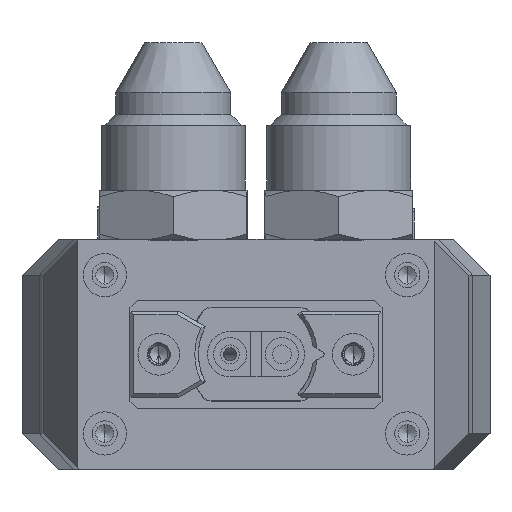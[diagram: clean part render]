
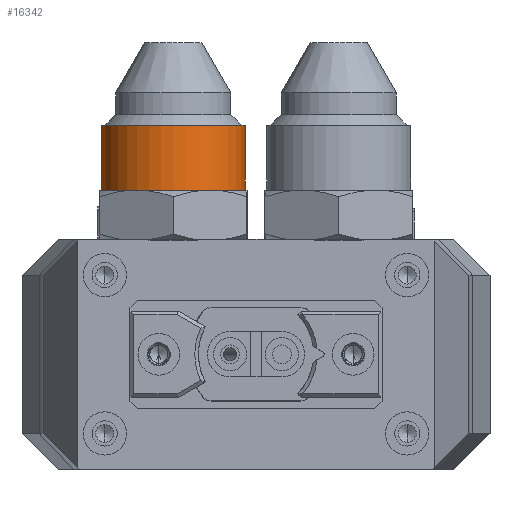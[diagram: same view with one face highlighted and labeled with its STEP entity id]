
A CAD part, front view. The second image highlights one B-rep face of the part: STEP entity #16342.
In plain terms, the highlighted cylindrical face has radius 10 mm (diameter 20 mm), a partial arc.
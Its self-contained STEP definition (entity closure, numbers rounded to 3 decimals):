
#1377 = DIRECTION ( 'NONE',  ( 0., 0., 1. ) ) ;
#2570 = EDGE_CURVE ( 'NONE', #67101, #8039, #26085, .T. ) ;
#3423 = DIRECTION ( 'NONE',  ( 1., 0., 0. ) ) ;
#5530 = LINE ( 'NONE', #22873, #9444 ) ;
#6074 = VERTEX_POINT ( 'NONE', #57973 ) ;
#6086 = VECTOR ( 'NONE', #35487, 1000. ) ;
#8039 = VERTEX_POINT ( 'NONE', #57898 ) ;
#9444 = VECTOR ( 'NONE', #27919, 1000. ) ;
#10691 = VERTEX_POINT ( 'NONE', #49204 ) ;
#10788 = CARTESIAN_POINT ( 'NONE',  ( 47.484, -124.724, 1009.903 ) ) ;
#11533 = DIRECTION ( 'NONE',  ( 0., 0., -1. ) ) ;
#12671 = DIRECTION ( 'NONE',  ( 0., 0., 1. ) ) ;
#16342 = ADVANCED_FACE ( 'NONE', ( #17025 ), #33612, .T. ) ;
#17025 = FACE_OUTER_BOUND ( 'NONE', #71092, .T. ) ;
#20784 = CARTESIAN_POINT ( 'NONE',  ( 57.484, -124.724, 1018.903 ) ) ;
#21619 = AXIS2_PLACEMENT_3D ( 'NONE', #10788, #1377, #3423 ) ;
#22029 = DIRECTION ( 'NONE',  ( 1., 0., 0. ) ) ;
#22873 = CARTESIAN_POINT ( 'NONE',  ( 37.484, -124.724, 1041.175 ) ) ;
#24274 = LINE ( 'NONE', #30757, #6086 ) ;
#25072 = CIRCLE ( 'NONE', #21619, 10. ) ;
#26085 = CIRCLE ( 'NONE', #49144, 10. ) ;
#27919 = DIRECTION ( 'NONE',  ( 0., 0., 1. ) ) ;
#30757 = CARTESIAN_POINT ( 'NONE',  ( 57.484, -124.724, 1041.175 ) ) ;
#33612 = CYLINDRICAL_SURFACE ( 'NONE', #63076, 10. ) ;
#34356 = DIRECTION ( 'NONE',  ( 1., 0., 0. ) ) ;
#35487 = DIRECTION ( 'NONE',  ( 0., 0., 1. ) ) ;
#38030 = EDGE_CURVE ( 'NONE', #6074, #8039, #5530, .T. ) ;
#43741 = CARTESIAN_POINT ( 'NONE',  ( 47.484, -124.724, 1018.903 ) ) ;
#45403 = ORIENTED_EDGE ( 'NONE', *, *, #2570, .T. ) ;
#49144 = AXIS2_PLACEMENT_3D ( 'NONE', #43741, #11533, #22029 ) ;
#49204 = CARTESIAN_POINT ( 'NONE',  ( 57.484, -124.724, 1009.903 ) ) ;
#51732 = CARTESIAN_POINT ( 'NONE',  ( 47.484, -124.724, 1041.175 ) ) ;
#57898 = CARTESIAN_POINT ( 'NONE',  ( 37.484, -124.724, 1018.903 ) ) ;
#57973 = CARTESIAN_POINT ( 'NONE',  ( 37.484, -124.724, 1009.903 ) ) ;
#61880 = EDGE_CURVE ( 'NONE', #10691, #67101, #24274, .T. ) ;
#63076 = AXIS2_PLACEMENT_3D ( 'NONE', #51732, #12671, #34356 ) ;
#66105 = ORIENTED_EDGE ( 'NONE', *, *, #61880, .T. ) ;
#67101 = VERTEX_POINT ( 'NONE', #20784 ) ;
#69310 = ORIENTED_EDGE ( 'NONE', *, *, #70512, .T. ) ;
#70512 = EDGE_CURVE ( 'NONE', #6074, #10691, #25072, .T. ) ;
#71092 = EDGE_LOOP ( 'NONE', ( #71535, #69310, #66105, #45403 ) ) ;
#71535 = ORIENTED_EDGE ( 'NONE', *, *, #38030, .F. ) ;
